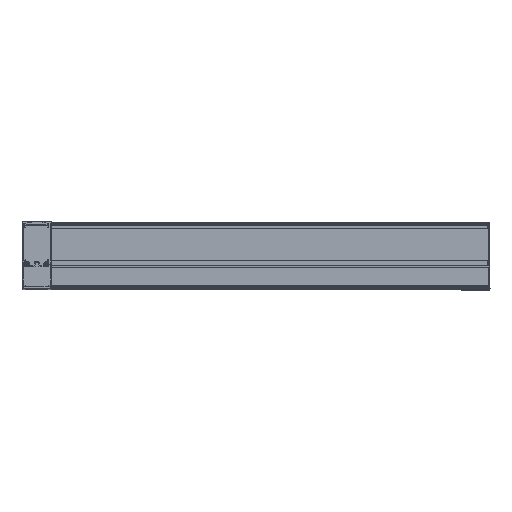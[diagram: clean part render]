
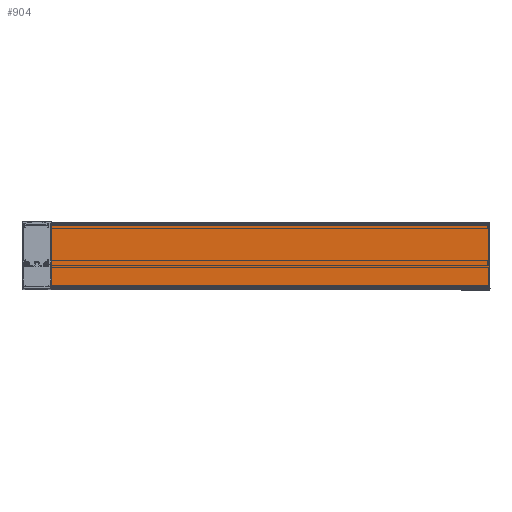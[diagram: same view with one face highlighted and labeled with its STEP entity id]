
A CAD part, top view. The second image highlights one B-rep face of the part: STEP entity #904.
In plain terms, the highlighted planar face has unit normal (0, 0, 1) as drawn and (1, 0, 0) by its records, which use the part's own axes.
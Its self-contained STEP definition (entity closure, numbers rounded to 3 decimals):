
#904=ADVANCED_FACE('',(#3859),#3861,.T.);
#3859=FACE_BOUND('',#3860,.T.);
#3860=EDGE_LOOP('',(#7395,#7396,#7397,#7398));
#3861=PLANE('',#3862);
#3862=AXIS2_PLACEMENT_3D('',#3863,#3864,#3865);
#3863=CARTESIAN_POINT('',(17.5,-73.75,-278.));
#3864=DIRECTION('',(1.,0.,-0.));
#3865=DIRECTION('',(0.,1.,0.));
#7395=ORIENTED_EDGE('',*,*,#10077,.T.);
#7396=ORIENTED_EDGE('',*,*,#10076,.T.);
#7397=ORIENTED_EDGE('',*,*,#10078,.T.);
#7398=ORIENTED_EDGE('',*,*,#10079,.F.);
#10076=EDGE_CURVE('',#12438,#12440,#12442,.T.);
#10077=EDGE_CURVE('',#12443,#12438,#12444,.F.);
#10078=EDGE_CURVE('',#12440,#12445,#12446,.F.);
#10079=EDGE_CURVE('',#12443,#12445,#12447,.T.);
#12438=VERTEX_POINT('',#17613);
#12440=VERTEX_POINT('',#17618);
#12442=LINE('',#17623,#17624);
#12443=VERTEX_POINT('',#17626);
#12444=LINE('',#17627,#17628);
#12445=VERTEX_POINT('',#17630);
#12446=LINE('',#17631,#17632);
#12447=LINE('',#17634,#17635);
#17613=CARTESIAN_POINT('',(17.5,4.,-278.));
#17618=CARTESIAN_POINT('',(17.5,4.,243.));
#17623=CARTESIAN_POINT('',(17.5,4.,-278.));
#17624=VECTOR('',#17625,1.);
#17625=DIRECTION('',(0.,0.,1.));
#17626=CARTESIAN_POINT('',(17.5,-73.75,-278.));
#17627=CARTESIAN_POINT('',(17.5,4.,-278.));
#17628=VECTOR('',#17629,1.);
#17629=DIRECTION('',(0.,-1.,0.));
#17630=CARTESIAN_POINT('',(17.5,-73.75,243.));
#17631=CARTESIAN_POINT('',(17.5,-73.75,243.));
#17632=VECTOR('',#17633,1.);
#17633=DIRECTION('',(0.,1.,0.));
#17634=CARTESIAN_POINT('',(17.5,-73.75,-278.));
#17635=VECTOR('',#17636,1.);
#17636=DIRECTION('',(0.,0.,1.));
